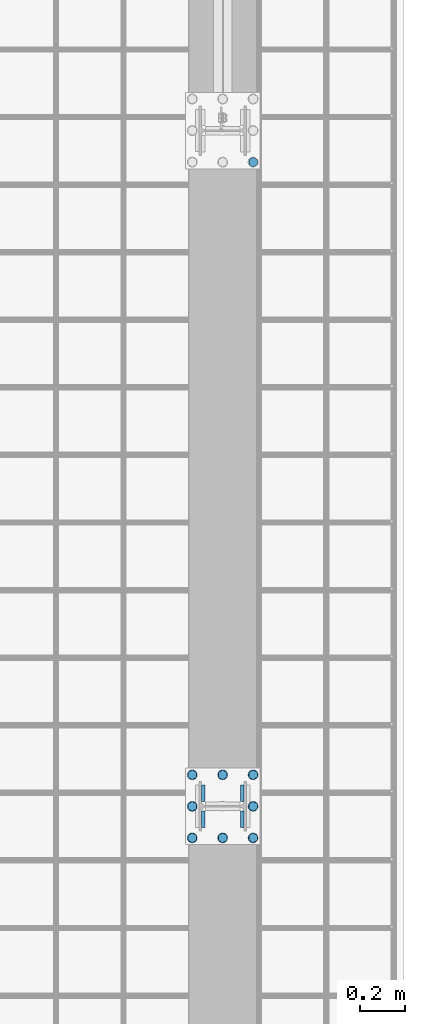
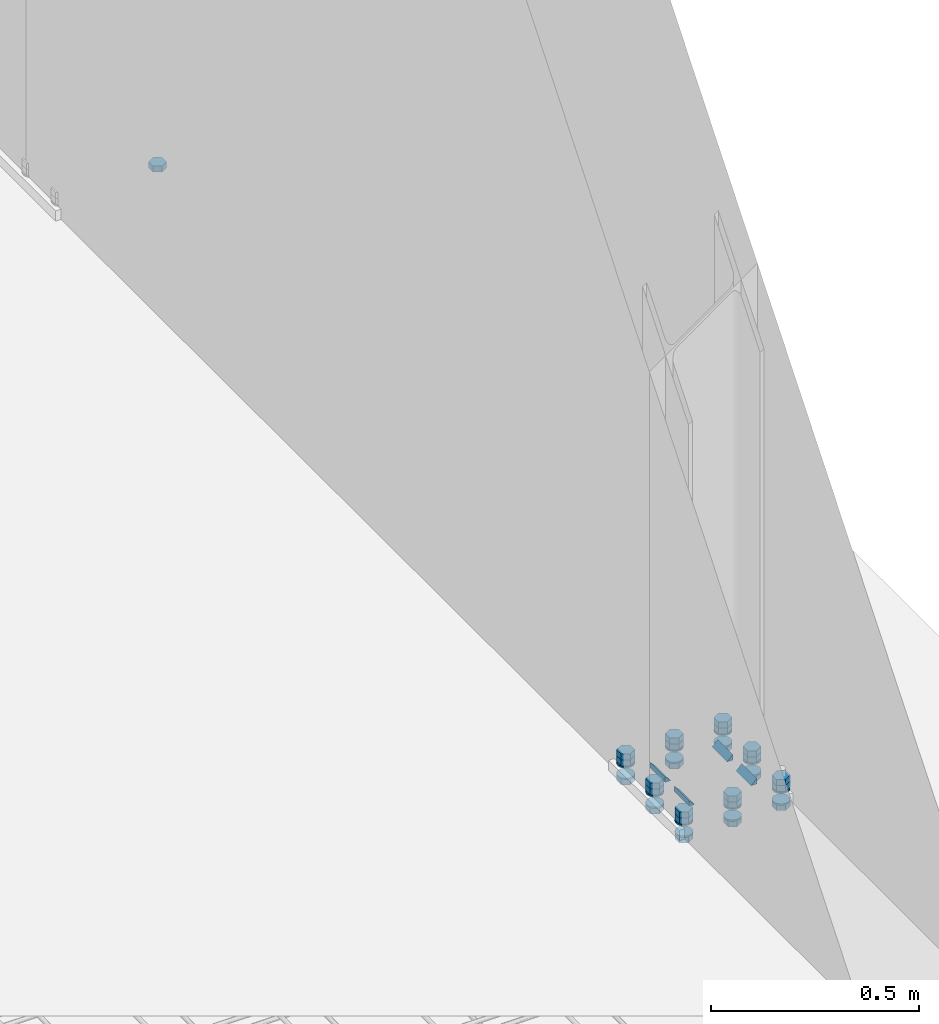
# One storey, part 24 of 29: 41 mechanical fasteners, 8 fasteners.
"""IFC4 building model written with IfcOpenShell, lengths in metres."""

from ifc_helpers import new_model, si_unit, frame, origin_with_axes, place, context, project, spatial, polyline, outline, extrude, type_object, element, save


model = new_model("IFC4")

# Units and contexts
model_context = context("Model", 3, precision=1e-05, world=origin_with_axes())
ifc_project = project(units=[si_unit("LENGTHUNIT", "METRE"), si_unit("AREAUNIT", "SQUARE_METRE"), si_unit("VOLUMEUNIT", "CUBIC_METRE"), si_unit("MASSUNIT", "GRAM", prefix="KILO"), si_unit("TIMEUNIT", "SECOND"), si_unit("PLANEANGLEUNIT", "RADIAN"), si_unit("SOLIDANGLEUNIT", "STERADIAN"), si_unit("THERMODYNAMICTEMPERATUREUNIT", "DEGREE_CELSIUS")], contexts=[model_context])

# Site, building, storey
placement_1 = place(None, origin_with_axes())
site = spatial("IfcSite", under=ifc_project, at=placement_1, Name="Italia", CompositionType="ELEMENT")
building = spatial("IfcBuilding", under=site, at=placement_1, Name="Capannone", CompositionType="ELEMENT")
storey = spatial("IfcBuildingStorey", under=building, at=placement_1, Name="Storey 0", CompositionType="ELEMENT", Elevation=0.0)

# Fasteners
fastener_type_1 = type_object("IfcFastenerType", Name="Collegamenti 0001_0101 0002_0102 0003_0103 0004_0104 0005_0105 0006_0106 0007_0107 0008_0108 0009_0109 0010_0110 0011_0111 0012_0112", PredefinedType="WELD")
placement_2 = place(placement_1, origin_with_axes())
fastener_1_placement = place(placement_2, origin_with_axes())
element("IfcFastener", 1, at=fastener_1_placement, inside=storey, type_object=fastener_type_1, Name="Collegamenti 0001_0101 0002_0102 0003_0103 0004_0104 0005_0105 0006_0106 0007_0107 0008_0108 0009_0109 0010_0110 0011_0111 0012_0112", context=model_context, shape_type="SweptSolid", body=[
    extrude(outline(polyline([(0.0, 0.0), (0.0156889, 0.0161734), (0.0156889, 0.0), (0.0, 0.0)])), frame((13.9216, 9.02145, 0.02995), z_axis=(0.0, 1.0, 0.0), x_axis=(-1.0, 0.0, 0.0)), (0.0, 0.0, 1.0), 0.0726004),
])
fastener_type_2 = type_object("IfcFastenerType", Name="Collegamenti 0001_0101 0002_0102 0003_0103 0004_0104 0005_0105 0006_0106 0007_0107 0008_0108 0009_0109 0010_0110 0011_0111 0012_0112", PredefinedType="WELD")
fastener_2_placement = place(placement_2, origin_with_axes())
element("IfcFastener", 2, at=fastener_2_placement, inside=storey, type_object=fastener_type_2, Name="Collegamenti 0001_0101 0002_0102 0003_0103 0004_0104 0005_0105 0006_0106 0007_0107 0008_0108 0009_0109 0010_0110 0011_0111 0012_0112", context=model_context, shape_type="SweptSolid", body=[
    extrude(outline(polyline([(0.0, 0.0), (0.0156889, 0.0161734), (0.0156889, 0.0), (0.0, 0.0)])), frame((14.0784, 9.09405, 0.02995), z_axis=(0.0, -1.0, 0.0), x_axis=(1.0, 0.0, 0.0)), (0.0, 0.0, 1.0), 0.0726004),
])
fastener_type_3 = type_object("IfcFastenerType", Name="Collegamenti 0001_0101 0002_0102 0003_0103 0004_0104 0005_0105 0006_0106 0007_0107 0008_0108 0009_0109 0010_0110 0011_0111 0012_0112", PredefinedType="WELD")
fastener_3_placement = place(placement_2, origin_with_axes())
element("IfcFastener", 3, at=fastener_3_placement, inside=storey, type_object=fastener_type_3, Name="Collegamenti 0001_0101 0002_0102 0003_0103 0004_0104 0005_0105 0006_0106 0007_0107 0008_0108 0009_0109 0010_0110 0011_0111 0012_0112", context=model_context, shape_type="SweptSolid", body=[
    extrude(outline(polyline([(0.0, 0.0), (0.0156889, 0.0161734), (0.0156889, 0.0), (0.0, 0.0)])), frame((14.0784, 8.97855, 0.02995), z_axis=(0.0, -1.0, 0.0), x_axis=(1.0, 0.0, 0.0)), (0.0, 0.0, 1.0), 0.0726004),
])
fastener_type_4 = type_object("IfcFastenerType", Name="Collegamenti 0001_0101 0002_0102 0003_0103 0004_0104 0005_0105 0006_0106 0007_0107 0008_0108 0009_0109 0010_0110 0011_0111 0012_0112", PredefinedType="WELD")
fastener_4_placement = place(placement_2, origin_with_axes())
element("IfcFastener", 4, at=fastener_4_placement, inside=storey, type_object=fastener_type_4, Name="Collegamenti 0001_0101 0002_0102 0003_0103 0004_0104 0005_0105 0006_0106 0007_0107 0008_0108 0009_0109 0010_0110 0011_0111 0012_0112", context=model_context, shape_type="SweptSolid", body=[
    extrude(outline(polyline([(0.0, 0.0), (0.0156889, 0.0161734), (0.0156889, 0.0), (0.0, 0.0)])), frame((13.9216, 8.90595, 0.02995), z_axis=(0.0, 1.0, 0.0), x_axis=(-1.0, 0.0, 0.0)), (0.0, 0.0, 1.0), 0.0726004),
])
fastener_type_5 = type_object("IfcFastenerType", Name="Collegamenti 0001_0101 0002_0102 0003_0103 0004_0104 0005_0105 0006_0106 0007_0107 0008_0108 0009_0109 0010_0110 0011_0111 0012_0112", PredefinedType="WELD")
fastener_5_placement = place(placement_2, origin_with_axes())
element("IfcFastener", 5, at=fastener_5_placement, inside=storey, type_object=fastener_type_5, Name="Collegamenti 0001_0101 0002_0102 0003_0103 0004_0104 0005_0105 0006_0106 0007_0107 0008_0108 0009_0109 0010_0110 0011_0111 0012_0112", context=model_context, shape_type="SweptSolid", body=[
    extrude(outline(polyline([(0.0, 0.0), (0.0156889, 0.0161734), (0.0156889, 0.0), (0.0, 0.0)])), frame((13.9216, 9.02145, 0.02995), z_axis=(0.0, 1.0, 0.0), x_axis=(-1.0, 0.0, 0.0)), (0.0, 0.0, 1.0), 0.0726004),
])
fastener_type_6 = type_object("IfcFastenerType", Name="Collegamenti 0001_0101 0002_0102 0003_0103 0004_0104 0005_0105 0006_0106 0007_0107 0008_0108 0009_0109 0010_0110 0011_0111 0012_0112", PredefinedType="WELD")
fastener_6_placement = place(placement_2, origin_with_axes())
element("IfcFastener", 6, at=fastener_6_placement, inside=storey, type_object=fastener_type_6, Name="Collegamenti 0001_0101 0002_0102 0003_0103 0004_0104 0005_0105 0006_0106 0007_0107 0008_0108 0009_0109 0010_0110 0011_0111 0012_0112", context=model_context, shape_type="SweptSolid", body=[
    extrude(outline(polyline([(0.0, 0.0), (0.0156889, 0.0161734), (0.0156889, 0.0), (0.0, 0.0)])), frame((14.0784, 9.09405, 0.02995), z_axis=(0.0, -1.0, 0.0), x_axis=(1.0, 0.0, 0.0)), (0.0, 0.0, 1.0), 0.0726004),
])
fastener_type_7 = type_object("IfcFastenerType", Name="Collegamenti 0001_0101 0002_0102 0003_0103 0004_0104 0005_0105 0006_0106 0007_0107 0008_0108 0009_0109 0010_0110 0011_0111 0012_0112", PredefinedType="WELD")
fastener_7_placement = place(placement_2, origin_with_axes())
element("IfcFastener", 7, at=fastener_7_placement, inside=storey, type_object=fastener_type_7, Name="Collegamenti 0001_0101 0002_0102 0003_0103 0004_0104 0005_0105 0006_0106 0007_0107 0008_0108 0009_0109 0010_0110 0011_0111 0012_0112", context=model_context, shape_type="SweptSolid", body=[
    extrude(outline(polyline([(0.0, 0.0), (0.0156889, 0.0161734), (0.0156889, 0.0), (0.0, 0.0)])), frame((14.0784, 8.97855, 0.02995), z_axis=(0.0, -1.0, 0.0), x_axis=(1.0, 0.0, 0.0)), (0.0, 0.0, 1.0), 0.0726004),
])
fastener_type_8 = type_object("IfcFastenerType", Name="Collegamenti 0001_0101 0002_0102 0003_0103 0004_0104 0005_0105 0006_0106 0007_0107 0008_0108 0009_0109 0010_0110 0011_0111 0012_0112", PredefinedType="WELD")
fastener_8_placement = place(placement_2, origin_with_axes())
element("IfcFastener", 8, at=fastener_8_placement, inside=storey, type_object=fastener_type_8, Name="Collegamenti 0001_0101 0002_0102 0003_0103 0004_0104 0005_0105 0006_0106 0007_0107 0008_0108 0009_0109 0010_0110 0011_0111 0012_0112", context=model_context, shape_type="SweptSolid", body=[
    extrude(outline(polyline([(0.0, 0.0), (0.0156889, 0.0161734), (0.0156889, 0.0), (0.0, 0.0)])), frame((13.9216, 8.90595, 0.02995), z_axis=(0.0, 1.0, 0.0), x_axis=(-1.0, 0.0, 0.0)), (0.0, 0.0, 1.0), 0.0726004),
])

# Mechanical fasteners
mechanical_fastener_type_1 = type_object("IfcMechanicalFastenerType", Name="Collegamenti 0001_0101 0002_0102 0003_0103 0004_0104 0005_0105 0006_0106 0007_0107 0008_0108 0009_0109 0010_0110 0011_0111 0012_0112", PredefinedType="BOLT")
mechanical_fastener_1_placement = place(placement_2, origin_with_axes())
element("IfcMechanicalFastener", 9, at=mechanical_fastener_1_placement, inside=storey, type_object=mechanical_fastener_type_1, Name="Collegamenti 0001_0101 0002_0102 0003_0103 0004_0104 0005_0105 0006_0106 0007_0107 0008_0108 0009_0109 0010_0110 0011_0111 0012_0112", NominalDiameter=0.0219998, context=model_context, shape_type="SweptSolid", body=[
    extrude(outline(polyline([(0.0, 0.0), (-0.0220003, 0.0), (-0.033, 0.0190525), (-0.0220003, 0.038105), (0.0, 0.038105), (0.0109997, 0.0190525), (0.0, 0.0)])), frame((14.1541, 8.871, 0.034), z_axis=(0.0, 0.0, 1.0), x_axis=(0.0, 1.0, 0.0)), (0.0, 0.0, 1.0), 0.0176),
])
mechanical_fastener_type_2 = type_object("IfcMechanicalFastenerType", Name="Collegamenti 0001_0101 0002_0102 0003_0103 0004_0104 0005_0105 0006_0106 0007_0107 0008_0108 0009_0109 0010_0110 0011_0111 0012_0112", PredefinedType="BOLT")
mechanical_fastener_2_placement = place(placement_2, origin_with_axes())
element("IfcMechanicalFastener", 10, at=mechanical_fastener_2_placement, inside=storey, type_object=mechanical_fastener_type_2, Name="Collegamenti 0001_0101 0002_0102 0003_0103 0004_0104 0005_0105 0006_0106 0007_0107 0008_0108 0009_0109 0010_0110 0011_0111 0012_0112", NominalDiameter=0.0219998, context=model_context, shape_type="SweptSolid", body=[
    extrude(outline(polyline([(0.0, 0.0), (-0.0220003, 0.0), (-0.033, 0.0190525), (-0.0220003, 0.038105), (0.0, 0.038105), (0.0109997, 0.0190525), (0.0, 0.0)])), frame((14.1541, 8.871, 0.0516), z_axis=(0.0, 0.0, 1.0), x_axis=(0.0, 1.0, 0.0)), (0.0, 0.0, 1.0), 0.0176),
])
mechanical_fastener_type_3 = type_object("IfcMechanicalFastenerType", Name="Collegamenti 0001_0101 0002_0102 0003_0103 0004_0104 0005_0105 0006_0106 0007_0107 0008_0108 0009_0109 0010_0110 0011_0111 0012_0112", PredefinedType="BOLT")
mechanical_fastener_3_placement = place(placement_2, origin_with_axes())
element("IfcMechanicalFastener", 11, at=mechanical_fastener_3_placement, inside=storey, type_object=mechanical_fastener_type_3, Name="Collegamenti 0001_0101 0002_0102 0003_0103 0004_0104 0005_0105 0006_0106 0007_0107 0008_0108 0009_0109 0010_0110 0011_0111 0012_0112", NominalDiameter=0.0219998, context=model_context, shape_type="SweptSolid", body=[
    extrude(outline(polyline([(0.0, 0.0), (-0.0220003, 0.0), (-0.033, 0.0190525), (-0.0220003, 0.038105), (0.0, 0.038105), (0.0109997, 0.0190525), (0.0, 0.0)])), frame((14.1541, 8.871, -0.0216), z_axis=(0.0, 0.0, 1.0), x_axis=(0.0, 1.0, 0.0)), (0.0, 0.0, 1.0), 0.0176),
])
mechanical_fastener_type_4 = type_object("IfcMechanicalFastenerType", Name="Collegamenti 0001_0101 0002_0102 0003_0103 0004_0104 0005_0105 0006_0106 0007_0107 0008_0108 0009_0109 0010_0110 0011_0111 0012_0112", PredefinedType="BOLT")
mechanical_fastener_4_placement = place(placement_2, origin_with_axes())
element("IfcMechanicalFastener", 12, at=mechanical_fastener_4_placement, inside=storey, type_object=mechanical_fastener_type_4, Name="Collegamenti 0001_0101 0002_0102 0003_0103 0004_0104 0005_0105 0006_0106 0007_0107 0008_0108 0009_0109 0010_0110 0011_0111 0012_0112", NominalDiameter=0.044, context=model_context, shape_type="SweptSolid", body=[
    extrude(outline(polyline([(0.0, 0.0), (-0.000749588, -0.00569439), (-0.00294781, -0.0109997), (-0.00644398, -0.0155563), (-0.0110006, -0.0190525), (-0.0163059, -0.0212507), (-0.0220003, -0.0220003), (-0.0276947, -0.0212507), (-0.033, -0.0190525), (-0.0375566, -0.0155563), (-0.0410528, -0.0109997), (-0.043251, -0.00569439), (-0.0440006, 0.0), (-0.043251, 0.00569439), (-0.0410528, 0.0109997), (-0.0375566, 0.0155563), (-0.033, 0.0190525), (-0.0276947, 0.0212507), (-0.0220003, 0.0220003), (-0.0163059, 0.0212507), (-0.0110006, 0.0190525), (-0.00644398, 0.0155563), (-0.00294781, 0.0109997), (-0.000749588, 0.00569439), (0.0, 0.0)])), frame((14.135, 8.882, 0.03), z_axis=(0.0, 0.0, 1.0), x_axis=(0.0, 1.0, 0.0)), (0.0, 0.0, 1.0), 0.004),
])
mechanical_fastener_type_5 = type_object("IfcMechanicalFastenerType", Name="Collegamenti 0001_0101 0002_0102 0003_0103 0004_0104 0005_0105 0006_0106 0007_0107 0008_0108 0009_0109 0010_0110 0011_0111 0012_0112", PredefinedType="BOLT")
mechanical_fastener_5_placement = place(placement_2, origin_with_axes())
element("IfcMechanicalFastener", 13, at=mechanical_fastener_5_placement, inside=storey, type_object=mechanical_fastener_type_5, Name="Collegamenti 0001_0101 0002_0102 0003_0103 0004_0104 0005_0105 0006_0106 0007_0107 0008_0108 0009_0109 0010_0110 0011_0111 0012_0112", NominalDiameter=0.044, context=model_context, shape_type="SweptSolid", body=[
    extrude(outline(polyline([(0.0, 0.0), (-0.000749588, -0.00569439), (-0.00294781, -0.0109997), (-0.00644398, -0.0155563), (-0.0110006, -0.0190525), (-0.0163059, -0.0212507), (-0.0220003, -0.0220003), (-0.0276947, -0.0212507), (-0.033, -0.0190525), (-0.0375566, -0.0155563), (-0.0410528, -0.0109997), (-0.043251, -0.00569439), (-0.0440006, 0.0), (-0.043251, 0.00569439), (-0.0410528, 0.0109997), (-0.0375566, 0.0155563), (-0.033, 0.0190525), (-0.0276947, 0.0212507), (-0.0220003, 0.0220003), (-0.0163059, 0.0212507), (-0.0110006, 0.0190525), (-0.00644398, 0.0155563), (-0.00294781, 0.0109997), (-0.000749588, 0.00569439), (0.0, 0.0)])), frame((14.135, 8.882, -0.004), z_axis=(0.0, 0.0, 1.0), x_axis=(0.0, 1.0, 0.0)), (0.0, 0.0, 1.0), 0.004),
])
mechanical_fastener_type_6 = type_object("IfcMechanicalFastenerType", Name="Collegamenti 0001_0101 0002_0102 0003_0103 0004_0104 0005_0105 0006_0106 0007_0107 0008_0108 0009_0109 0010_0110 0011_0111 0012_0112", PredefinedType="BOLT")
mechanical_fastener_6_placement = place(placement_2, origin_with_axes())
element("IfcMechanicalFastener", 14, at=mechanical_fastener_6_placement, inside=storey, type_object=mechanical_fastener_type_6, Name="Collegamenti 0001_0101 0002_0102 0003_0103 0004_0104 0005_0105 0006_0106 0007_0107 0008_0108 0009_0109 0010_0110 0011_0111 0012_0112", NominalDiameter=0.0219994, context=model_context, shape_type="SweptSolid", body=[
    extrude(outline(polyline([(0.0, 0.0), (-0.0219994, 0.0), (-0.033, 0.0190525), (-0.0219994, 0.038105), (0.0, 0.038105), (0.0110006, 0.0190525), (0.0, 0.0)])), frame((14.1541, 9.011, 0.034), z_axis=(0.0, 0.0, 1.0), x_axis=(0.0, 1.0, 0.0)), (0.0, 0.0, 1.0), 0.0176),
])
mechanical_fastener_type_7 = type_object("IfcMechanicalFastenerType", Name="Collegamenti 0001_0101 0002_0102 0003_0103 0004_0104 0005_0105 0006_0106 0007_0107 0008_0108 0009_0109 0010_0110 0011_0111 0012_0112", PredefinedType="BOLT")
mechanical_fastener_7_placement = place(placement_2, origin_with_axes())
element("IfcMechanicalFastener", 15, at=mechanical_fastener_7_placement, inside=storey, type_object=mechanical_fastener_type_7, Name="Collegamenti 0001_0101 0002_0102 0003_0103 0004_0104 0005_0105 0006_0106 0007_0107 0008_0108 0009_0109 0010_0110 0011_0111 0012_0112", NominalDiameter=0.0219994, context=model_context, shape_type="SweptSolid", body=[
    extrude(outline(polyline([(0.0, 0.0), (-0.0219994, 0.0), (-0.033, 0.0190525), (-0.0219994, 0.038105), (0.0, 0.038105), (0.0110006, 0.0190525), (0.0, 0.0)])), frame((14.1541, 9.011, 0.0516), z_axis=(0.0, 0.0, 1.0), x_axis=(0.0, 1.0, 0.0)), (0.0, 0.0, 1.0), 0.0176),
])
mechanical_fastener_type_8 = type_object("IfcMechanicalFastenerType", Name="Collegamenti 0001_0101 0002_0102 0003_0103 0004_0104 0005_0105 0006_0106 0007_0107 0008_0108 0009_0109 0010_0110 0011_0111 0012_0112", PredefinedType="BOLT")
mechanical_fastener_8_placement = place(placement_2, origin_with_axes())
element("IfcMechanicalFastener", 16, at=mechanical_fastener_8_placement, inside=storey, type_object=mechanical_fastener_type_8, Name="Collegamenti 0001_0101 0002_0102 0003_0103 0004_0104 0005_0105 0006_0106 0007_0107 0008_0108 0009_0109 0010_0110 0011_0111 0012_0112", NominalDiameter=0.0219994, context=model_context, shape_type="SweptSolid", body=[
    extrude(outline(polyline([(0.0, 0.0), (-0.0219994, 0.0), (-0.033, 0.0190525), (-0.0219994, 0.038105), (0.0, 0.038105), (0.0110006, 0.0190525), (0.0, 0.0)])), frame((14.1541, 9.011, -0.0216), z_axis=(0.0, 0.0, 1.0), x_axis=(0.0, 1.0, 0.0)), (0.0, 0.0, 1.0), 0.0176),
])
mechanical_fastener_type_9 = type_object("IfcMechanicalFastenerType", Name="Collegamenti 0001_0101 0002_0102 0003_0103 0004_0104 0005_0105 0006_0106 0007_0107 0008_0108 0009_0109 0010_0110 0011_0111 0012_0112", PredefinedType="BOLT")
mechanical_fastener_9_placement = place(placement_2, origin_with_axes())
element("IfcMechanicalFastener", 17, at=mechanical_fastener_9_placement, inside=storey, type_object=mechanical_fastener_type_9, Name="Collegamenti 0001_0101 0002_0102 0003_0103 0004_0104 0005_0105 0006_0106 0007_0107 0008_0108 0009_0109 0010_0110 0011_0111 0012_0112", NominalDiameter=0.044, context=model_context, shape_type="SweptSolid", body=[
    extrude(outline(polyline([(0.0, 0.0), (-0.000749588, -0.00569439), (-0.00294781, -0.0109997), (-0.00644398, -0.0155563), (-0.0110006, -0.0190525), (-0.0163059, -0.0212507), (-0.0220003, -0.0220003), (-0.0276947, -0.0212507), (-0.033, -0.0190525), (-0.0375566, -0.0155563), (-0.0410528, -0.0109997), (-0.043251, -0.00569439), (-0.0440006, 0.0), (-0.043251, 0.00569439), (-0.0410528, 0.0109997), (-0.0375566, 0.0155563), (-0.033, 0.0190525), (-0.0276947, 0.0212507), (-0.0220003, 0.0220003), (-0.0163059, 0.0212507), (-0.0110006, 0.0190525), (-0.00644398, 0.0155563), (-0.00294781, 0.0109997), (-0.000749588, 0.00569439), (0.0, 0.0)])), frame((14.135, 9.022, 0.03), z_axis=(0.0, 0.0, 1.0), x_axis=(0.0, 1.0, 0.0)), (0.0, 0.0, 1.0), 0.004),
])
mechanical_fastener_type_10 = type_object("IfcMechanicalFastenerType", Name="Collegamenti 0001_0101 0002_0102 0003_0103 0004_0104 0005_0105 0006_0106 0007_0107 0008_0108 0009_0109 0010_0110 0011_0111 0012_0112", PredefinedType="BOLT")
mechanical_fastener_10_placement = place(placement_2, origin_with_axes())
element("IfcMechanicalFastener", 18, at=mechanical_fastener_10_placement, inside=storey, type_object=mechanical_fastener_type_10, Name="Collegamenti 0001_0101 0002_0102 0003_0103 0004_0104 0005_0105 0006_0106 0007_0107 0008_0108 0009_0109 0010_0110 0011_0111 0012_0112", NominalDiameter=0.044, context=model_context, shape_type="SweptSolid", body=[
    extrude(outline(polyline([(0.0, 0.0), (-0.000749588, -0.00569439), (-0.00294781, -0.0109997), (-0.00644398, -0.0155563), (-0.0110006, -0.0190525), (-0.0163059, -0.0212507), (-0.0220003, -0.0220003), (-0.0276947, -0.0212507), (-0.033, -0.0190525), (-0.0375566, -0.0155563), (-0.0410528, -0.0109997), (-0.043251, -0.00569439), (-0.0440006, 0.0), (-0.043251, 0.00569439), (-0.0410528, 0.0109997), (-0.0375566, 0.0155563), (-0.033, 0.0190525), (-0.0276947, 0.0212507), (-0.0220003, 0.0220003), (-0.0163059, 0.0212507), (-0.0110006, 0.0190525), (-0.00644398, 0.0155563), (-0.00294781, 0.0109997), (-0.000749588, 0.00569439), (0.0, 0.0)])), frame((14.135, 9.022, -0.004), z_axis=(0.0, 0.0, 1.0), x_axis=(0.0, 1.0, 0.0)), (0.0, 0.0, 1.0), 0.004),
])
mechanical_fastener_type_11 = type_object("IfcMechanicalFastenerType", Name="Collegamenti 0001_0101 0002_0102 0003_0103 0004_0104 0005_0105 0006_0106 0007_0107 0008_0108 0009_0109 0010_0110 0011_0111 0012_0112", PredefinedType="BOLT")
mechanical_fastener_11_placement = place(placement_2, origin_with_axes())
element("IfcMechanicalFastener", 19, at=mechanical_fastener_11_placement, inside=storey, type_object=mechanical_fastener_type_11, Name="Collegamenti 0001_0101 0002_0102 0003_0103 0004_0104 0005_0105 0006_0106 0007_0107 0008_0108 0009_0109 0010_0110 0011_0111 0012_0112", NominalDiameter=0.0219998, context=model_context, shape_type="SweptSolid", body=[
    extrude(outline(polyline([(0.0, 0.0), (-0.0220003, 0.0), (-0.033, 0.0190525), (-0.0220003, 0.038105), (0.0, 0.038105), (0.0109997, 0.0190525), (0.0, 0.0)])), frame((14.1541, 9.151, 0.034), z_axis=(0.0, 0.0, 1.0), x_axis=(0.0, 1.0, 0.0)), (0.0, 0.0, 1.0), 0.0176),
])
mechanical_fastener_type_12 = type_object("IfcMechanicalFastenerType", Name="Collegamenti 0001_0101 0002_0102 0003_0103 0004_0104 0005_0105 0006_0106 0007_0107 0008_0108 0009_0109 0010_0110 0011_0111 0012_0112", PredefinedType="BOLT")
mechanical_fastener_12_placement = place(placement_2, origin_with_axes())
element("IfcMechanicalFastener", 20, at=mechanical_fastener_12_placement, inside=storey, type_object=mechanical_fastener_type_12, Name="Collegamenti 0001_0101 0002_0102 0003_0103 0004_0104 0005_0105 0006_0106 0007_0107 0008_0108 0009_0109 0010_0110 0011_0111 0012_0112", NominalDiameter=0.0219998, context=model_context, shape_type="SweptSolid", body=[
    extrude(outline(polyline([(0.0, 0.0), (-0.0220003, 0.0), (-0.033, 0.0190525), (-0.0220003, 0.038105), (0.0, 0.038105), (0.0109997, 0.0190525), (0.0, 0.0)])), frame((14.1541, 9.151, 0.0516), z_axis=(0.0, 0.0, 1.0), x_axis=(0.0, 1.0, 0.0)), (0.0, 0.0, 1.0), 0.0176),
])
mechanical_fastener_type_13 = type_object("IfcMechanicalFastenerType", Name="Collegamenti 0001_0101 0002_0102 0003_0103 0004_0104 0005_0105 0006_0106 0007_0107 0008_0108 0009_0109 0010_0110 0011_0111 0012_0112", PredefinedType="BOLT")
mechanical_fastener_13_placement = place(placement_2, origin_with_axes())
element("IfcMechanicalFastener", 21, at=mechanical_fastener_13_placement, inside=storey, type_object=mechanical_fastener_type_13, Name="Collegamenti 0001_0101 0002_0102 0003_0103 0004_0104 0005_0105 0006_0106 0007_0107 0008_0108 0009_0109 0010_0110 0011_0111 0012_0112", NominalDiameter=0.0219998, context=model_context, shape_type="SweptSolid", body=[
    extrude(outline(polyline([(0.0, 0.0), (-0.0220003, 0.0), (-0.033, 0.0190525), (-0.0220003, 0.038105), (0.0, 0.038105), (0.0109997, 0.0190525), (0.0, 0.0)])), frame((14.1541, 9.151, -0.0216), z_axis=(0.0, 0.0, 1.0), x_axis=(0.0, 1.0, 0.0)), (0.0, 0.0, 1.0), 0.0176),
])
mechanical_fastener_type_14 = type_object("IfcMechanicalFastenerType", Name="Collegamenti 0001_0101 0002_0102 0003_0103 0004_0104 0005_0105 0006_0106 0007_0107 0008_0108 0009_0109 0010_0110 0011_0111 0012_0112", PredefinedType="BOLT")
mechanical_fastener_14_placement = place(placement_2, origin_with_axes())
element("IfcMechanicalFastener", 22, at=mechanical_fastener_14_placement, inside=storey, type_object=mechanical_fastener_type_14, Name="Collegamenti 0001_0101 0002_0102 0003_0103 0004_0104 0005_0105 0006_0106 0007_0107 0008_0108 0009_0109 0010_0110 0011_0111 0012_0112", NominalDiameter=0.044, context=model_context, shape_type="SweptSolid", body=[
    extrude(outline(polyline([(0.0, 0.0), (-0.000749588, -0.00569439), (-0.00294781, -0.0109997), (-0.00644398, -0.0155563), (-0.0110006, -0.0190525), (-0.0163059, -0.0212507), (-0.0220003, -0.0220003), (-0.0276947, -0.0212507), (-0.033, -0.0190525), (-0.0375566, -0.0155563), (-0.0410528, -0.0109997), (-0.043251, -0.00569439), (-0.0440006, 0.0), (-0.043251, 0.00569439), (-0.0410528, 0.0109997), (-0.0375566, 0.0155563), (-0.033, 0.0190525), (-0.0276947, 0.0212507), (-0.0220003, 0.0220003), (-0.0163059, 0.0212507), (-0.0110006, 0.0190525), (-0.00644398, 0.0155563), (-0.00294781, 0.0109997), (-0.000749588, 0.00569439), (0.0, 0.0)])), frame((14.135, 9.162, 0.03), z_axis=(0.0, 0.0, 1.0), x_axis=(0.0, 1.0, 0.0)), (0.0, 0.0, 1.0), 0.004),
])
mechanical_fastener_type_15 = type_object("IfcMechanicalFastenerType", Name="Collegamenti 0001_0101 0002_0102 0003_0103 0004_0104 0005_0105 0006_0106 0007_0107 0008_0108 0009_0109 0010_0110 0011_0111 0012_0112", PredefinedType="BOLT")
mechanical_fastener_15_placement = place(placement_2, origin_with_axes())
element("IfcMechanicalFastener", 23, at=mechanical_fastener_15_placement, inside=storey, type_object=mechanical_fastener_type_15, Name="Collegamenti 0001_0101 0002_0102 0003_0103 0004_0104 0005_0105 0006_0106 0007_0107 0008_0108 0009_0109 0010_0110 0011_0111 0012_0112", NominalDiameter=0.044, context=model_context, shape_type="SweptSolid", body=[
    extrude(outline(polyline([(0.0, 0.0), (-0.000749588, -0.00569439), (-0.00294781, -0.0109997), (-0.00644398, -0.0155563), (-0.0110006, -0.0190525), (-0.0163059, -0.0212507), (-0.0220003, -0.0220003), (-0.0276947, -0.0212507), (-0.033, -0.0190525), (-0.0375566, -0.0155563), (-0.0410528, -0.0109997), (-0.043251, -0.00569439), (-0.0440006, 0.0), (-0.043251, 0.00569439), (-0.0410528, 0.0109997), (-0.0375566, 0.0155563), (-0.033, 0.0190525), (-0.0276947, 0.0212507), (-0.0220003, 0.0220003), (-0.0163059, 0.0212507), (-0.0110006, 0.0190525), (-0.00644398, 0.0155563), (-0.00294781, 0.0109997), (-0.000749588, 0.00569439), (0.0, 0.0)])), frame((14.135, 9.162, -0.004), z_axis=(0.0, 0.0, 1.0), x_axis=(0.0, 1.0, 0.0)), (0.0, 0.0, 1.0), 0.004),
])
mechanical_fastener_type_16 = type_object("IfcMechanicalFastenerType", Name="Collegamenti 0001_0101 0002_0102 0003_0103 0004_0104 0005_0105 0006_0106 0007_0107 0008_0108 0009_0109 0010_0110 0011_0111 0012_0112", PredefinedType="BOLT")
mechanical_fastener_16_placement = place(placement_2, origin_with_axes())
element("IfcMechanicalFastener", 24, at=mechanical_fastener_16_placement, inside=storey, type_object=mechanical_fastener_type_16, Name="Collegamenti 0001_0101 0002_0102 0003_0103 0004_0104 0005_0105 0006_0106 0007_0107 0008_0108 0009_0109 0010_0110 0011_0111 0012_0112", NominalDiameter=0.0219998, context=model_context, shape_type="SweptSolid", body=[
    extrude(outline(polyline([(0.0, 0.0), (-0.0220003, 0.0), (-0.033, 0.0190525), (-0.0220003, 0.038105), (0.0, 0.038105), (0.0109997, 0.0190525), (0.0, 0.0)])), frame((14.0191, 8.871, 0.034), z_axis=(0.0, 0.0, 1.0), x_axis=(0.0, 1.0, 0.0)), (0.0, 0.0, 1.0), 0.0176),
])
mechanical_fastener_type_17 = type_object("IfcMechanicalFastenerType", Name="Collegamenti 0001_0101 0002_0102 0003_0103 0004_0104 0005_0105 0006_0106 0007_0107 0008_0108 0009_0109 0010_0110 0011_0111 0012_0112", PredefinedType="BOLT")
mechanical_fastener_17_placement = place(placement_2, origin_with_axes())
element("IfcMechanicalFastener", 25, at=mechanical_fastener_17_placement, inside=storey, type_object=mechanical_fastener_type_17, Name="Collegamenti 0001_0101 0002_0102 0003_0103 0004_0104 0005_0105 0006_0106 0007_0107 0008_0108 0009_0109 0010_0110 0011_0111 0012_0112", NominalDiameter=0.0219998, context=model_context, shape_type="SweptSolid", body=[
    extrude(outline(polyline([(0.0, 0.0), (-0.0220003, 0.0), (-0.033, 0.0190525), (-0.0220003, 0.038105), (0.0, 0.038105), (0.0109997, 0.0190525), (0.0, 0.0)])), frame((14.0191, 8.871, 0.0516), z_axis=(0.0, 0.0, 1.0), x_axis=(0.0, 1.0, 0.0)), (0.0, 0.0, 1.0), 0.0176),
])
mechanical_fastener_type_18 = type_object("IfcMechanicalFastenerType", Name="Collegamenti 0001_0101 0002_0102 0003_0103 0004_0104 0005_0105 0006_0106 0007_0107 0008_0108 0009_0109 0010_0110 0011_0111 0012_0112", PredefinedType="BOLT")
mechanical_fastener_18_placement = place(placement_2, origin_with_axes())
element("IfcMechanicalFastener", 26, at=mechanical_fastener_18_placement, inside=storey, type_object=mechanical_fastener_type_18, Name="Collegamenti 0001_0101 0002_0102 0003_0103 0004_0104 0005_0105 0006_0106 0007_0107 0008_0108 0009_0109 0010_0110 0011_0111 0012_0112", NominalDiameter=0.0219998, context=model_context, shape_type="SweptSolid", body=[
    extrude(outline(polyline([(0.0, 0.0), (-0.0220003, 0.0), (-0.033, 0.0190525), (-0.0220003, 0.038105), (0.0, 0.038105), (0.0109997, 0.0190525), (0.0, 0.0)])), frame((14.0191, 8.871, -0.0216), z_axis=(0.0, 0.0, 1.0), x_axis=(0.0, 1.0, 0.0)), (0.0, 0.0, 1.0), 0.0176),
])
mechanical_fastener_type_19 = type_object("IfcMechanicalFastenerType", Name="Collegamenti 0001_0101 0002_0102 0003_0103 0004_0104 0005_0105 0006_0106 0007_0107 0008_0108 0009_0109 0010_0110 0011_0111 0012_0112", PredefinedType="BOLT")
mechanical_fastener_19_placement = place(placement_2, origin_with_axes())
element("IfcMechanicalFastener", 27, at=mechanical_fastener_19_placement, inside=storey, type_object=mechanical_fastener_type_19, Name="Collegamenti 0001_0101 0002_0102 0003_0103 0004_0104 0005_0105 0006_0106 0007_0107 0008_0108 0009_0109 0010_0110 0011_0111 0012_0112", NominalDiameter=0.044, context=model_context, shape_type="SweptSolid", body=[
    extrude(outline(polyline([(0.0, 0.0), (-0.000749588, -0.00569439), (-0.00294781, -0.0109997), (-0.00644398, -0.0155563), (-0.0110006, -0.0190525), (-0.0163059, -0.0212507), (-0.0220003, -0.0220003), (-0.0276947, -0.0212507), (-0.033, -0.0190525), (-0.0375566, -0.0155563), (-0.0410528, -0.0109997), (-0.043251, -0.00569439), (-0.0440006, 0.0), (-0.043251, 0.00569439), (-0.0410528, 0.0109997), (-0.0375566, 0.0155563), (-0.033, 0.0190525), (-0.0276947, 0.0212507), (-0.0220003, 0.0220003), (-0.0163059, 0.0212507), (-0.0110006, 0.0190525), (-0.00644398, 0.0155563), (-0.00294781, 0.0109997), (-0.000749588, 0.00569439), (0.0, 0.0)])), frame((14.0, 8.882, 0.03), z_axis=(0.0, 0.0, 1.0), x_axis=(0.0, 1.0, 0.0)), (0.0, 0.0, 1.0), 0.004),
])
mechanical_fastener_type_20 = type_object("IfcMechanicalFastenerType", Name="Collegamenti 0001_0101 0002_0102 0003_0103 0004_0104 0005_0105 0006_0106 0007_0107 0008_0108 0009_0109 0010_0110 0011_0111 0012_0112", PredefinedType="BOLT")
mechanical_fastener_20_placement = place(placement_2, origin_with_axes())
element("IfcMechanicalFastener", 28, at=mechanical_fastener_20_placement, inside=storey, type_object=mechanical_fastener_type_20, Name="Collegamenti 0001_0101 0002_0102 0003_0103 0004_0104 0005_0105 0006_0106 0007_0107 0008_0108 0009_0109 0010_0110 0011_0111 0012_0112", NominalDiameter=0.044, context=model_context, shape_type="SweptSolid", body=[
    extrude(outline(polyline([(0.0, 0.0), (-0.000749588, -0.00569439), (-0.00294781, -0.0109997), (-0.00644398, -0.0155563), (-0.0110006, -0.0190525), (-0.0163059, -0.0212507), (-0.0220003, -0.0220003), (-0.0276947, -0.0212507), (-0.033, -0.0190525), (-0.0375566, -0.0155563), (-0.0410528, -0.0109997), (-0.043251, -0.00569439), (-0.0440006, 0.0), (-0.043251, 0.00569439), (-0.0410528, 0.0109997), (-0.0375566, 0.0155563), (-0.033, 0.0190525), (-0.0276947, 0.0212507), (-0.0220003, 0.0220003), (-0.0163059, 0.0212507), (-0.0110006, 0.0190525), (-0.00644398, 0.0155563), (-0.00294781, 0.0109997), (-0.000749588, 0.00569439), (0.0, 0.0)])), frame((14.0, 8.882, -0.004), z_axis=(0.0, 0.0, 1.0), x_axis=(0.0, 1.0, 0.0)), (0.0, 0.0, 1.0), 0.004),
])
mechanical_fastener_type_21 = type_object("IfcMechanicalFastenerType", Name="Collegamenti 0001_0101 0002_0102 0003_0103 0004_0104 0005_0105 0006_0106 0007_0107 0008_0108 0009_0109 0010_0110 0011_0111 0012_0112", PredefinedType="BOLT")
mechanical_fastener_21_placement = place(placement_2, origin_with_axes())
element("IfcMechanicalFastener", 29, at=mechanical_fastener_21_placement, inside=storey, type_object=mechanical_fastener_type_21, Name="Collegamenti 0001_0101 0002_0102 0003_0103 0004_0104 0005_0105 0006_0106 0007_0107 0008_0108 0009_0109 0010_0110 0011_0111 0012_0112", NominalDiameter=0.0219998, context=model_context, shape_type="SweptSolid", body=[
    extrude(outline(polyline([(0.0, 0.0), (-0.0220003, 0.0), (-0.033, 0.0190525), (-0.0220003, 0.038105), (0.0, 0.038105), (0.0109997, 0.0190525), (0.0, 0.0)])), frame((14.0191, 9.151, 0.034), z_axis=(0.0, 0.0, 1.0), x_axis=(0.0, 1.0, 0.0)), (0.0, 0.0, 1.0), 0.0176),
])
mechanical_fastener_type_22 = type_object("IfcMechanicalFastenerType", Name="Collegamenti 0001_0101 0002_0102 0003_0103 0004_0104 0005_0105 0006_0106 0007_0107 0008_0108 0009_0109 0010_0110 0011_0111 0012_0112", PredefinedType="BOLT")
mechanical_fastener_22_placement = place(placement_2, origin_with_axes())
element("IfcMechanicalFastener", 30, at=mechanical_fastener_22_placement, inside=storey, type_object=mechanical_fastener_type_22, Name="Collegamenti 0001_0101 0002_0102 0003_0103 0004_0104 0005_0105 0006_0106 0007_0107 0008_0108 0009_0109 0010_0110 0011_0111 0012_0112", NominalDiameter=0.0219998, context=model_context, shape_type="SweptSolid", body=[
    extrude(outline(polyline([(0.0, 0.0), (-0.0220003, 0.0), (-0.033, 0.0190525), (-0.0220003, 0.038105), (0.0, 0.038105), (0.0109997, 0.0190525), (0.0, 0.0)])), frame((14.0191, 9.151, 0.0516), z_axis=(0.0, 0.0, 1.0), x_axis=(0.0, 1.0, 0.0)), (0.0, 0.0, 1.0), 0.0176),
])
mechanical_fastener_type_23 = type_object("IfcMechanicalFastenerType", Name="Collegamenti 0001_0101 0002_0102 0003_0103 0004_0104 0005_0105 0006_0106 0007_0107 0008_0108 0009_0109 0010_0110 0011_0111 0012_0112", PredefinedType="BOLT")
mechanical_fastener_23_placement = place(placement_2, origin_with_axes())
element("IfcMechanicalFastener", 31, at=mechanical_fastener_23_placement, inside=storey, type_object=mechanical_fastener_type_23, Name="Collegamenti 0001_0101 0002_0102 0003_0103 0004_0104 0005_0105 0006_0106 0007_0107 0008_0108 0009_0109 0010_0110 0011_0111 0012_0112", NominalDiameter=0.0219998, context=model_context, shape_type="SweptSolid", body=[
    extrude(outline(polyline([(0.0, 0.0), (-0.0220003, 0.0), (-0.033, 0.0190525), (-0.0220003, 0.038105), (0.0, 0.038105), (0.0109997, 0.0190525), (0.0, 0.0)])), frame((14.0191, 9.151, -0.0216), z_axis=(0.0, 0.0, 1.0), x_axis=(0.0, 1.0, 0.0)), (0.0, 0.0, 1.0), 0.0176),
])
mechanical_fastener_type_24 = type_object("IfcMechanicalFastenerType", Name="Collegamenti 0001_0101 0002_0102 0003_0103 0004_0104 0005_0105 0006_0106 0007_0107 0008_0108 0009_0109 0010_0110 0011_0111 0012_0112", PredefinedType="BOLT")
mechanical_fastener_24_placement = place(placement_2, origin_with_axes())
element("IfcMechanicalFastener", 32, at=mechanical_fastener_24_placement, inside=storey, type_object=mechanical_fastener_type_24, Name="Collegamenti 0001_0101 0002_0102 0003_0103 0004_0104 0005_0105 0006_0106 0007_0107 0008_0108 0009_0109 0010_0110 0011_0111 0012_0112", NominalDiameter=0.044, context=model_context, shape_type="SweptSolid", body=[
    extrude(outline(polyline([(0.0, 0.0), (-0.000749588, -0.00569439), (-0.00294781, -0.0109997), (-0.00644398, -0.0155563), (-0.0110006, -0.0190525), (-0.0163059, -0.0212507), (-0.0220003, -0.0220003), (-0.0276947, -0.0212507), (-0.033, -0.0190525), (-0.0375566, -0.0155563), (-0.0410528, -0.0109997), (-0.043251, -0.00569439), (-0.0440006, 0.0), (-0.043251, 0.00569439), (-0.0410528, 0.0109997), (-0.0375566, 0.0155563), (-0.033, 0.0190525), (-0.0276947, 0.0212507), (-0.0220003, 0.0220003), (-0.0163059, 0.0212507), (-0.0110006, 0.0190525), (-0.00644398, 0.0155563), (-0.00294781, 0.0109997), (-0.000749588, 0.00569439), (0.0, 0.0)])), frame((14.0, 9.162, 0.03), z_axis=(0.0, 0.0, 1.0), x_axis=(0.0, 1.0, 0.0)), (0.0, 0.0, 1.0), 0.004),
])
mechanical_fastener_type_25 = type_object("IfcMechanicalFastenerType", Name="Collegamenti 0001_0101 0002_0102 0003_0103 0004_0104 0005_0105 0006_0106 0007_0107 0008_0108 0009_0109 0010_0110 0011_0111 0012_0112", PredefinedType="BOLT")
mechanical_fastener_25_placement = place(placement_2, origin_with_axes())
element("IfcMechanicalFastener", 33, at=mechanical_fastener_25_placement, inside=storey, type_object=mechanical_fastener_type_25, Name="Collegamenti 0001_0101 0002_0102 0003_0103 0004_0104 0005_0105 0006_0106 0007_0107 0008_0108 0009_0109 0010_0110 0011_0111 0012_0112", NominalDiameter=0.044, context=model_context, shape_type="SweptSolid", body=[
    extrude(outline(polyline([(0.0, 0.0), (-0.000749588, -0.00569439), (-0.00294781, -0.0109997), (-0.00644398, -0.0155563), (-0.0110006, -0.0190525), (-0.0163059, -0.0212507), (-0.0220003, -0.0220003), (-0.0276947, -0.0212507), (-0.033, -0.0190525), (-0.0375566, -0.0155563), (-0.0410528, -0.0109997), (-0.043251, -0.00569439), (-0.0440006, 0.0), (-0.043251, 0.00569439), (-0.0410528, 0.0109997), (-0.0375566, 0.0155563), (-0.033, 0.0190525), (-0.0276947, 0.0212507), (-0.0220003, 0.0220003), (-0.0163059, 0.0212507), (-0.0110006, 0.0190525), (-0.00644398, 0.0155563), (-0.00294781, 0.0109997), (-0.000749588, 0.00569439), (0.0, 0.0)])), frame((14.0, 9.162, -0.004), z_axis=(0.0, 0.0, 1.0), x_axis=(0.0, 1.0, 0.0)), (0.0, 0.0, 1.0), 0.004),
])
mechanical_fastener_type_26 = type_object("IfcMechanicalFastenerType", Name="Collegamenti 0001_0101 0002_0102 0003_0103 0004_0104 0005_0105 0006_0106 0007_0107 0008_0108 0009_0109 0010_0110 0011_0111 0012_0112", PredefinedType="BOLT")
mechanical_fastener_26_placement = place(placement_2, origin_with_axes())
element("IfcMechanicalFastener", 34, at=mechanical_fastener_26_placement, inside=storey, type_object=mechanical_fastener_type_26, Name="Collegamenti 0001_0101 0002_0102 0003_0103 0004_0104 0005_0105 0006_0106 0007_0107 0008_0108 0009_0109 0010_0110 0011_0111 0012_0112", NominalDiameter=0.0219998, context=model_context, shape_type="SweptSolid", body=[
    extrude(outline(polyline([(0.0, 0.0), (-0.0220003, 0.0), (-0.033, 0.0190525), (-0.0220003, 0.038105), (0.0, 0.038105), (0.0109997, 0.0190525), (0.0, 0.0)])), frame((13.8841, 8.871, 0.034), z_axis=(0.0, 0.0, 1.0), x_axis=(0.0, 1.0, 0.0)), (0.0, 0.0, 1.0), 0.0176),
])
mechanical_fastener_type_27 = type_object("IfcMechanicalFastenerType", Name="Collegamenti 0001_0101 0002_0102 0003_0103 0004_0104 0005_0105 0006_0106 0007_0107 0008_0108 0009_0109 0010_0110 0011_0111 0012_0112", PredefinedType="BOLT")
mechanical_fastener_27_placement = place(placement_2, origin_with_axes())
element("IfcMechanicalFastener", 35, at=mechanical_fastener_27_placement, inside=storey, type_object=mechanical_fastener_type_27, Name="Collegamenti 0001_0101 0002_0102 0003_0103 0004_0104 0005_0105 0006_0106 0007_0107 0008_0108 0009_0109 0010_0110 0011_0111 0012_0112", NominalDiameter=0.0219998, context=model_context, shape_type="SweptSolid", body=[
    extrude(outline(polyline([(0.0, 0.0), (-0.0220003, 0.0), (-0.033, 0.0190525), (-0.0220003, 0.038105), (0.0, 0.038105), (0.0109997, 0.0190525), (0.0, 0.0)])), frame((13.8841, 8.871, 0.0516), z_axis=(0.0, 0.0, 1.0), x_axis=(0.0, 1.0, 0.0)), (0.0, 0.0, 1.0), 0.0176),
])
mechanical_fastener_type_28 = type_object("IfcMechanicalFastenerType", Name="Collegamenti 0001_0101 0002_0102 0003_0103 0004_0104 0005_0105 0006_0106 0007_0107 0008_0108 0009_0109 0010_0110 0011_0111 0012_0112", PredefinedType="BOLT")
mechanical_fastener_28_placement = place(placement_2, origin_with_axes())
element("IfcMechanicalFastener", 36, at=mechanical_fastener_28_placement, inside=storey, type_object=mechanical_fastener_type_28, Name="Collegamenti 0001_0101 0002_0102 0003_0103 0004_0104 0005_0105 0006_0106 0007_0107 0008_0108 0009_0109 0010_0110 0011_0111 0012_0112", NominalDiameter=0.0219998, context=model_context, shape_type="SweptSolid", body=[
    extrude(outline(polyline([(0.0, 0.0), (-0.0220003, 0.0), (-0.033, 0.0190525), (-0.0220003, 0.038105), (0.0, 0.038105), (0.0109997, 0.0190525), (0.0, 0.0)])), frame((13.8841, 8.871, -0.0216), z_axis=(0.0, 0.0, 1.0), x_axis=(0.0, 1.0, 0.0)), (0.0, 0.0, 1.0), 0.0176),
])
mechanical_fastener_type_29 = type_object("IfcMechanicalFastenerType", Name="Collegamenti 0001_0101 0002_0102 0003_0103 0004_0104 0005_0105 0006_0106 0007_0107 0008_0108 0009_0109 0010_0110 0011_0111 0012_0112", PredefinedType="BOLT")
mechanical_fastener_29_placement = place(placement_2, origin_with_axes())
element("IfcMechanicalFastener", 37, at=mechanical_fastener_29_placement, inside=storey, type_object=mechanical_fastener_type_29, Name="Collegamenti 0001_0101 0002_0102 0003_0103 0004_0104 0005_0105 0006_0106 0007_0107 0008_0108 0009_0109 0010_0110 0011_0111 0012_0112", NominalDiameter=0.044, context=model_context, shape_type="SweptSolid", body=[
    extrude(outline(polyline([(0.0, 0.0), (-0.000749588, -0.00569439), (-0.00294781, -0.0109997), (-0.00644398, -0.0155563), (-0.0110006, -0.0190525), (-0.0163059, -0.0212507), (-0.0220003, -0.0220003), (-0.0276947, -0.0212507), (-0.033, -0.0190525), (-0.0375566, -0.0155563), (-0.0410528, -0.0109997), (-0.043251, -0.00569439), (-0.0440006, 0.0), (-0.043251, 0.00569439), (-0.0410528, 0.0109997), (-0.0375566, 0.0155563), (-0.033, 0.0190525), (-0.0276947, 0.0212507), (-0.0220003, 0.0220003), (-0.0163059, 0.0212507), (-0.0110006, 0.0190525), (-0.00644398, 0.0155563), (-0.00294781, 0.0109997), (-0.000749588, 0.00569439), (0.0, 0.0)])), frame((13.865, 8.882, 0.03), z_axis=(0.0, 0.0, 1.0), x_axis=(0.0, 1.0, 0.0)), (0.0, 0.0, 1.0), 0.004),
])
mechanical_fastener_type_30 = type_object("IfcMechanicalFastenerType", Name="Collegamenti 0001_0101 0002_0102 0003_0103 0004_0104 0005_0105 0006_0106 0007_0107 0008_0108 0009_0109 0010_0110 0011_0111 0012_0112", PredefinedType="BOLT")
mechanical_fastener_30_placement = place(placement_2, origin_with_axes())
element("IfcMechanicalFastener", 38, at=mechanical_fastener_30_placement, inside=storey, type_object=mechanical_fastener_type_30, Name="Collegamenti 0001_0101 0002_0102 0003_0103 0004_0104 0005_0105 0006_0106 0007_0107 0008_0108 0009_0109 0010_0110 0011_0111 0012_0112", NominalDiameter=0.044, context=model_context, shape_type="SweptSolid", body=[
    extrude(outline(polyline([(0.0, 0.0), (-0.000749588, -0.00569439), (-0.00294781, -0.0109997), (-0.00644398, -0.0155563), (-0.0110006, -0.0190525), (-0.0163059, -0.0212507), (-0.0220003, -0.0220003), (-0.0276947, -0.0212507), (-0.033, -0.0190525), (-0.0375566, -0.0155563), (-0.0410528, -0.0109997), (-0.043251, -0.00569439), (-0.0440006, 0.0), (-0.043251, 0.00569439), (-0.0410528, 0.0109997), (-0.0375566, 0.0155563), (-0.033, 0.0190525), (-0.0276947, 0.0212507), (-0.0220003, 0.0220003), (-0.0163059, 0.0212507), (-0.0110006, 0.0190525), (-0.00644398, 0.0155563), (-0.00294781, 0.0109997), (-0.000749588, 0.00569439), (0.0, 0.0)])), frame((13.865, 8.882, -0.004), z_axis=(0.0, 0.0, 1.0), x_axis=(0.0, 1.0, 0.0)), (0.0, 0.0, 1.0), 0.004),
])
mechanical_fastener_type_31 = type_object("IfcMechanicalFastenerType", Name="Collegamenti 0001_0101 0002_0102 0003_0103 0004_0104 0005_0105 0006_0106 0007_0107 0008_0108 0009_0109 0010_0110 0011_0111 0012_0112", PredefinedType="BOLT")
mechanical_fastener_31_placement = place(placement_2, origin_with_axes())
element("IfcMechanicalFastener", 39, at=mechanical_fastener_31_placement, inside=storey, type_object=mechanical_fastener_type_31, Name="Collegamenti 0001_0101 0002_0102 0003_0103 0004_0104 0005_0105 0006_0106 0007_0107 0008_0108 0009_0109 0010_0110 0011_0111 0012_0112", NominalDiameter=0.0219994, context=model_context, shape_type="SweptSolid", body=[
    extrude(outline(polyline([(0.0, 0.0), (-0.0219994, 0.0), (-0.033, 0.0190525), (-0.0219994, 0.038105), (0.0, 0.038105), (0.0110006, 0.0190525), (0.0, 0.0)])), frame((13.8841, 9.011, 0.034), z_axis=(0.0, 0.0, 1.0), x_axis=(0.0, 1.0, 0.0)), (0.0, 0.0, 1.0), 0.0176),
])
mechanical_fastener_type_32 = type_object("IfcMechanicalFastenerType", Name="Collegamenti 0001_0101 0002_0102 0003_0103 0004_0104 0005_0105 0006_0106 0007_0107 0008_0108 0009_0109 0010_0110 0011_0111 0012_0112", PredefinedType="BOLT")
mechanical_fastener_32_placement = place(placement_2, origin_with_axes())
element("IfcMechanicalFastener", 40, at=mechanical_fastener_32_placement, inside=storey, type_object=mechanical_fastener_type_32, Name="Collegamenti 0001_0101 0002_0102 0003_0103 0004_0104 0005_0105 0006_0106 0007_0107 0008_0108 0009_0109 0010_0110 0011_0111 0012_0112", NominalDiameter=0.0219994, context=model_context, shape_type="SweptSolid", body=[
    extrude(outline(polyline([(0.0, 0.0), (-0.0219994, 0.0), (-0.033, 0.0190525), (-0.0219994, 0.038105), (0.0, 0.038105), (0.0110006, 0.0190525), (0.0, 0.0)])), frame((13.8841, 9.011, 0.0516), z_axis=(0.0, 0.0, 1.0), x_axis=(0.0, 1.0, 0.0)), (0.0, 0.0, 1.0), 0.0176),
])
mechanical_fastener_type_33 = type_object("IfcMechanicalFastenerType", Name="Collegamenti 0001_0101 0002_0102 0003_0103 0004_0104 0005_0105 0006_0106 0007_0107 0008_0108 0009_0109 0010_0110 0011_0111 0012_0112", PredefinedType="BOLT")
mechanical_fastener_33_placement = place(placement_2, origin_with_axes())
element("IfcMechanicalFastener", 41, at=mechanical_fastener_33_placement, inside=storey, type_object=mechanical_fastener_type_33, Name="Collegamenti 0001_0101 0002_0102 0003_0103 0004_0104 0005_0105 0006_0106 0007_0107 0008_0108 0009_0109 0010_0110 0011_0111 0012_0112", NominalDiameter=0.0219994, context=model_context, shape_type="SweptSolid", body=[
    extrude(outline(polyline([(0.0, 0.0), (-0.0219994, 0.0), (-0.033, 0.0190525), (-0.0219994, 0.038105), (0.0, 0.038105), (0.0110006, 0.0190525), (0.0, 0.0)])), frame((13.8841, 9.011, -0.0216), z_axis=(0.0, 0.0, 1.0), x_axis=(0.0, 1.0, 0.0)), (0.0, 0.0, 1.0), 0.0176),
])
mechanical_fastener_type_34 = type_object("IfcMechanicalFastenerType", Name="Collegamenti 0001_0101 0002_0102 0003_0103 0004_0104 0005_0105 0006_0106 0007_0107 0008_0108 0009_0109 0010_0110 0011_0111 0012_0112", PredefinedType="BOLT")
mechanical_fastener_34_placement = place(placement_2, origin_with_axes())
element("IfcMechanicalFastener", 42, at=mechanical_fastener_34_placement, inside=storey, type_object=mechanical_fastener_type_34, Name="Collegamenti 0001_0101 0002_0102 0003_0103 0004_0104 0005_0105 0006_0106 0007_0107 0008_0108 0009_0109 0010_0110 0011_0111 0012_0112", NominalDiameter=0.044, context=model_context, shape_type="SweptSolid", body=[
    extrude(outline(polyline([(0.0, 0.0), (-0.000749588, -0.00569439), (-0.00294781, -0.0109997), (-0.00644398, -0.0155563), (-0.0110006, -0.0190525), (-0.0163059, -0.0212507), (-0.0220003, -0.0220003), (-0.0276947, -0.0212507), (-0.033, -0.0190525), (-0.0375566, -0.0155563), (-0.0410528, -0.0109997), (-0.043251, -0.00569439), (-0.0440006, 0.0), (-0.043251, 0.00569439), (-0.0410528, 0.0109997), (-0.0375566, 0.0155563), (-0.033, 0.0190525), (-0.0276947, 0.0212507), (-0.0220003, 0.0220003), (-0.0163059, 0.0212507), (-0.0110006, 0.0190525), (-0.00644398, 0.0155563), (-0.00294781, 0.0109997), (-0.000749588, 0.00569439), (0.0, 0.0)])), frame((13.865, 9.022, 0.03), z_axis=(0.0, 0.0, 1.0), x_axis=(0.0, 1.0, 0.0)), (0.0, 0.0, 1.0), 0.004),
])
mechanical_fastener_type_35 = type_object("IfcMechanicalFastenerType", Name="Collegamenti 0001_0101 0002_0102 0003_0103 0004_0104 0005_0105 0006_0106 0007_0107 0008_0108 0009_0109 0010_0110 0011_0111 0012_0112", PredefinedType="BOLT")
mechanical_fastener_35_placement = place(placement_2, origin_with_axes())
element("IfcMechanicalFastener", 43, at=mechanical_fastener_35_placement, inside=storey, type_object=mechanical_fastener_type_35, Name="Collegamenti 0001_0101 0002_0102 0003_0103 0004_0104 0005_0105 0006_0106 0007_0107 0008_0108 0009_0109 0010_0110 0011_0111 0012_0112", NominalDiameter=0.044, context=model_context, shape_type="SweptSolid", body=[
    extrude(outline(polyline([(0.0, 0.0), (-0.000749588, -0.00569439), (-0.00294781, -0.0109997), (-0.00644398, -0.0155563), (-0.0110006, -0.0190525), (-0.0163059, -0.0212507), (-0.0220003, -0.0220003), (-0.0276947, -0.0212507), (-0.033, -0.0190525), (-0.0375566, -0.0155563), (-0.0410528, -0.0109997), (-0.043251, -0.00569439), (-0.0440006, 0.0), (-0.043251, 0.00569439), (-0.0410528, 0.0109997), (-0.0375566, 0.0155563), (-0.033, 0.0190525), (-0.0276947, 0.0212507), (-0.0220003, 0.0220003), (-0.0163059, 0.0212507), (-0.0110006, 0.0190525), (-0.00644398, 0.0155563), (-0.00294781, 0.0109997), (-0.000749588, 0.00569439), (0.0, 0.0)])), frame((13.865, 9.022, -0.004), z_axis=(0.0, 0.0, 1.0), x_axis=(0.0, 1.0, 0.0)), (0.0, 0.0, 1.0), 0.004),
])
mechanical_fastener_type_36 = type_object("IfcMechanicalFastenerType", Name="Collegamenti 0001_0101 0002_0102 0003_0103 0004_0104 0005_0105 0006_0106 0007_0107 0008_0108 0009_0109 0010_0110 0011_0111 0012_0112", PredefinedType="BOLT")
mechanical_fastener_36_placement = place(placement_2, origin_with_axes())
element("IfcMechanicalFastener", 44, at=mechanical_fastener_36_placement, inside=storey, type_object=mechanical_fastener_type_36, Name="Collegamenti 0001_0101 0002_0102 0003_0103 0004_0104 0005_0105 0006_0106 0007_0107 0008_0108 0009_0109 0010_0110 0011_0111 0012_0112", NominalDiameter=0.0219998, context=model_context, shape_type="SweptSolid", body=[
    extrude(outline(polyline([(0.0, 0.0), (-0.0220003, 0.0), (-0.033, 0.0190525), (-0.0220003, 0.038105), (0.0, 0.038105), (0.0109997, 0.0190525), (0.0, 0.0)])), frame((13.8841, 9.151, 0.034), z_axis=(0.0, 0.0, 1.0), x_axis=(0.0, 1.0, 0.0)), (0.0, 0.0, 1.0), 0.0176),
])
mechanical_fastener_type_37 = type_object("IfcMechanicalFastenerType", Name="Collegamenti 0001_0101 0002_0102 0003_0103 0004_0104 0005_0105 0006_0106 0007_0107 0008_0108 0009_0109 0010_0110 0011_0111 0012_0112", PredefinedType="BOLT")
mechanical_fastener_37_placement = place(placement_2, origin_with_axes())
element("IfcMechanicalFastener", 45, at=mechanical_fastener_37_placement, inside=storey, type_object=mechanical_fastener_type_37, Name="Collegamenti 0001_0101 0002_0102 0003_0103 0004_0104 0005_0105 0006_0106 0007_0107 0008_0108 0009_0109 0010_0110 0011_0111 0012_0112", NominalDiameter=0.0219998, context=model_context, shape_type="SweptSolid", body=[
    extrude(outline(polyline([(0.0, 0.0), (-0.0220003, 0.0), (-0.033, 0.0190525), (-0.0220003, 0.038105), (0.0, 0.038105), (0.0109997, 0.0190525), (0.0, 0.0)])), frame((13.8841, 9.151, 0.0516), z_axis=(0.0, 0.0, 1.0), x_axis=(0.0, 1.0, 0.0)), (0.0, 0.0, 1.0), 0.0176),
])
mechanical_fastener_type_38 = type_object("IfcMechanicalFastenerType", Name="Collegamenti 0001_0101 0002_0102 0003_0103 0004_0104 0005_0105 0006_0106 0007_0107 0008_0108 0009_0109 0010_0110 0011_0111 0012_0112", PredefinedType="BOLT")
mechanical_fastener_38_placement = place(placement_2, origin_with_axes())
element("IfcMechanicalFastener", 46, at=mechanical_fastener_38_placement, inside=storey, type_object=mechanical_fastener_type_38, Name="Collegamenti 0001_0101 0002_0102 0003_0103 0004_0104 0005_0105 0006_0106 0007_0107 0008_0108 0009_0109 0010_0110 0011_0111 0012_0112", NominalDiameter=0.0219998, context=model_context, shape_type="SweptSolid", body=[
    extrude(outline(polyline([(0.0, 0.0), (-0.0220003, 0.0), (-0.033, 0.0190525), (-0.0220003, 0.038105), (0.0, 0.038105), (0.0109997, 0.0190525), (0.0, 0.0)])), frame((13.8841, 9.151, -0.0216), z_axis=(0.0, 0.0, 1.0), x_axis=(0.0, 1.0, 0.0)), (0.0, 0.0, 1.0), 0.0176),
])
mechanical_fastener_type_39 = type_object("IfcMechanicalFastenerType", Name="Collegamenti 0001_0101 0002_0102 0003_0103 0004_0104 0005_0105 0006_0106 0007_0107 0008_0108 0009_0109 0010_0110 0011_0111 0012_0112", PredefinedType="BOLT")
mechanical_fastener_39_placement = place(placement_2, origin_with_axes())
element("IfcMechanicalFastener", 47, at=mechanical_fastener_39_placement, inside=storey, type_object=mechanical_fastener_type_39, Name="Collegamenti 0001_0101 0002_0102 0003_0103 0004_0104 0005_0105 0006_0106 0007_0107 0008_0108 0009_0109 0010_0110 0011_0111 0012_0112", NominalDiameter=0.044, context=model_context, shape_type="SweptSolid", body=[
    extrude(outline(polyline([(0.0, 0.0), (-0.000749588, -0.00569439), (-0.00294781, -0.0109997), (-0.00644398, -0.0155563), (-0.0110006, -0.0190525), (-0.0163059, -0.0212507), (-0.0220003, -0.0220003), (-0.0276947, -0.0212507), (-0.033, -0.0190525), (-0.0375566, -0.0155563), (-0.0410528, -0.0109997), (-0.043251, -0.00569439), (-0.0440006, 0.0), (-0.043251, 0.00569439), (-0.0410528, 0.0109997), (-0.0375566, 0.0155563), (-0.033, 0.0190525), (-0.0276947, 0.0212507), (-0.0220003, 0.0220003), (-0.0163059, 0.0212507), (-0.0110006, 0.0190525), (-0.00644398, 0.0155563), (-0.00294781, 0.0109997), (-0.000749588, 0.00569439), (0.0, 0.0)])), frame((13.865, 9.162, 0.03), z_axis=(0.0, 0.0, 1.0), x_axis=(0.0, 1.0, 0.0)), (0.0, 0.0, 1.0), 0.004),
])
mechanical_fastener_type_40 = type_object("IfcMechanicalFastenerType", Name="Collegamenti 0001_0101 0002_0102 0003_0103 0004_0104 0005_0105 0006_0106 0007_0107 0008_0108 0009_0109 0010_0110 0011_0111 0012_0112", PredefinedType="BOLT")
mechanical_fastener_40_placement = place(placement_2, origin_with_axes())
element("IfcMechanicalFastener", 48, at=mechanical_fastener_40_placement, inside=storey, type_object=mechanical_fastener_type_40, Name="Collegamenti 0001_0101 0002_0102 0003_0103 0004_0104 0005_0105 0006_0106 0007_0107 0008_0108 0009_0109 0010_0110 0011_0111 0012_0112", NominalDiameter=0.044, context=model_context, shape_type="SweptSolid", body=[
    extrude(outline(polyline([(0.0, 0.0), (-0.000749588, -0.00569439), (-0.00294781, -0.0109997), (-0.00644398, -0.0155563), (-0.0110006, -0.0190525), (-0.0163059, -0.0212507), (-0.0220003, -0.0220003), (-0.0276947, -0.0212507), (-0.033, -0.0190525), (-0.0375566, -0.0155563), (-0.0410528, -0.0109997), (-0.043251, -0.00569439), (-0.0440006, 0.0), (-0.043251, 0.00569439), (-0.0410528, 0.0109997), (-0.0375566, 0.0155563), (-0.033, 0.0190525), (-0.0276947, 0.0212507), (-0.0220003, 0.0220003), (-0.0163059, 0.0212507), (-0.0110006, 0.0190525), (-0.00644398, 0.0155563), (-0.00294781, 0.0109997), (-0.000749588, 0.00569439), (0.0, 0.0)])), frame((13.865, 9.162, -0.004), z_axis=(0.0, 0.0, 1.0), x_axis=(0.0, 1.0, 0.0)), (0.0, 0.0, 1.0), 0.004),
])
mechanical_fastener_type_41 = type_object("IfcMechanicalFastenerType", Name="Collegamenti 0001_0101 0002_0102 0003_0103 0004_0104 0005_0105 0006_0106 0007_0107 0008_0108 0009_0109 0010_0110 0011_0111 0012_0112", PredefinedType="BOLT")
mechanical_fastener_41_placement = place(placement_2, origin_with_axes())
element("IfcMechanicalFastener", 49, at=mechanical_fastener_41_placement, inside=storey, type_object=mechanical_fastener_type_41, Name="Collegamenti 0001_0101 0002_0102 0003_0103 0004_0104 0005_0105 0006_0106 0007_0107 0008_0108 0009_0109 0010_0110 0011_0111 0012_0112", NominalDiameter=0.0219998, context=model_context, shape_type="SweptSolid", body=[
    extrude(outline(polyline([(0.0, 0.0), (-0.0220003, 0.0), (-0.033, 0.0190525), (-0.0220003, 0.038105), (0.0, 0.038105), (0.0109997, 0.0190525), (0.0, 0.0)])), frame((14.1541, 11.871, 0.034), z_axis=(0.0, 0.0, 1.0), x_axis=(0.0, 1.0, 0.0)), (0.0, 0.0, 1.0), 0.0176),
])

save(model, "model.ifc")
